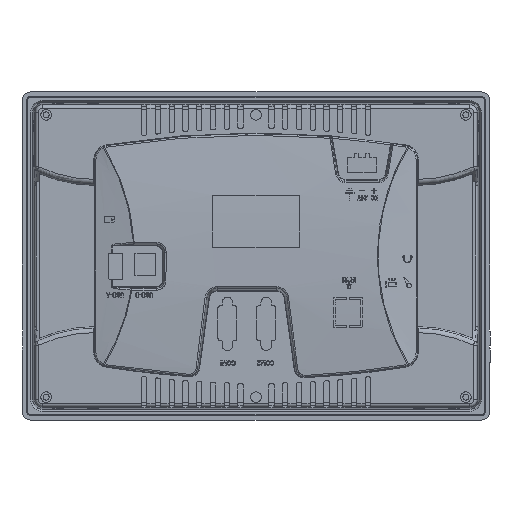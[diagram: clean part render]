
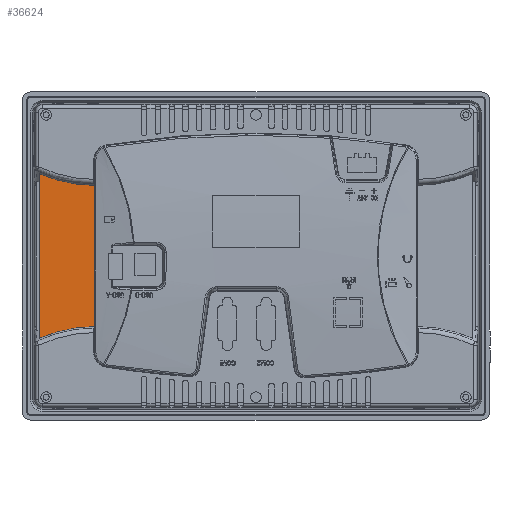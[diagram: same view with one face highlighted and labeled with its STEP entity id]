
A CAD part, front view. The second image highlights one B-rep face of the part: STEP entity #36624.
In plain terms, the highlighted planar face has unit normal (0, -1, 0).
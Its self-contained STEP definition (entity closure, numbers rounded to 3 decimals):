
#1142=DIRECTION('',(0.,0.,1.));
#1143=VECTOR('',#1142,95.656);
#1144=CARTESIAN_POINT('',(-125.724,-22.7,-47.828));
#1145=LINE('',#1144,#1143);
#1286=DIRECTION('',(0.,0.,1.));
#1287=VECTOR('',#1286,80.994);
#1288=CARTESIAN_POINT('',(-93.855,-22.7,-40.497));
#1289=LINE('',#1288,#1287);
#1302=CARTESIAN_POINT('',(-93.855,-22.7,40.497));
#1303=CARTESIAN_POINT('',(-93.855,-22.7,40.58));
#1304=CARTESIAN_POINT('',(-93.883,-22.7,40.729));
#1305=CARTESIAN_POINT('',(-93.999,-22.7,40.921));
#1306=CARTESIAN_POINT('',(-94.163,-22.7,41.038));
#1307=CARTESIAN_POINT('',(-94.28,-22.7,41.064));
#1308=CARTESIAN_POINT('',(-94.343,-22.7,41.064));
#1321=CARTESIAN_POINT('',(-93.75,-22.7,120.));
#1322=DIRECTION('',(0.,-1.,0.));
#1323=DIRECTION('',(-0.405,0.,-0.914));
#1324=AXIS2_PLACEMENT_3D('',#1321,#1322,#1323);
#20764=CARTESIAN_POINT('',(-93.75,-22.7,-120.));
#20765=DIRECTION('',(0.,-1.,0.));
#20766=DIRECTION('',(-0.008,0.,1.));
#20767=AXIS2_PLACEMENT_3D('',#20764,#20765,#20766);
#20780=CARTESIAN_POINT('',(-94.343,-22.7,-41.064));
#20781=CARTESIAN_POINT('',(-94.28,-22.7,-41.064));
#20782=CARTESIAN_POINT('',(-94.163,-22.7,-41.038));
#20783=CARTESIAN_POINT('',(-93.999,-22.7,-40.921));
#20784=CARTESIAN_POINT('',(-93.883,-22.7,-40.729));
#20785=CARTESIAN_POINT('',(-93.855,-22.7,-40.58));
#20786=CARTESIAN_POINT('',(-93.855,-22.7,-40.497));
#33933=CARTESIAN_POINT('',(-93.855,-22.7,-40.497));
#33934=CARTESIAN_POINT('',(-93.855,-22.7,40.497));
#33935=VERTEX_POINT('',#33933);
#33936=VERTEX_POINT('',#33934);
#33945=CARTESIAN_POINT('',(-125.724,-22.7,47.828));
#33946=CARTESIAN_POINT('',(-94.343,-22.7,41.064));
#33947=VERTEX_POINT('',#33945);
#33948=VERTEX_POINT('',#33946);
#33949=CARTESIAN_POINT('',(-94.343,-22.7,-41.064));
#33950=CARTESIAN_POINT('',(-125.724,-22.7,-47.828));
#33951=VERTEX_POINT('',#33949);
#33952=VERTEX_POINT('',#33950);
#36605=CARTESIAN_POINT('',(0.,-22.7,0.));
#36606=DIRECTION('',(0.,1.,0.));
#36607=DIRECTION('',(-1.,0.,0.));
#36608=AXIS2_PLACEMENT_3D('',#36605,#36606,#36607);
#36609=PLANE('',#36608);
#36611=ORIENTED_EDGE('',*,*,#36610,.F.);
#36613=ORIENTED_EDGE('',*,*,#36612,.F.);
#36615=ORIENTED_EDGE('',*,*,#36614,.T.);
#36617=ORIENTED_EDGE('',*,*,#36616,.T.);
#36619=ORIENTED_EDGE('',*,*,#36618,.T.);
#36621=ORIENTED_EDGE('',*,*,#36620,.F.);
#36622=EDGE_LOOP('',(#36611,#36613,#36615,#36617,#36619,#36621));
#36623=FACE_OUTER_BOUND('',#36622,.F.);
#1309=B_SPLINE_CURVE_WITH_KNOTS('',3,(#1302,#1303,#1304,#1305,#1306,#1307,
#1308),.UNSPECIFIED.,.F.,.F.,(4,1,1,1,4),(0.,0.25,0.5,0.75,1.),
.UNSPECIFIED.);
#1325=CIRCLE('',#1324,78.938);
#20768=CIRCLE('',#20767,78.938);
#20787=B_SPLINE_CURVE_WITH_KNOTS('',3,(#20780,#20781,#20782,#20783,#20784,
#20785,#20786),.UNSPECIFIED.,.F.,.F.,(4,1,1,1,4),(0.,0.25,0.5,0.75,
1.),.UNSPECIFIED.);
#36610=EDGE_CURVE('',#33935,#33936,#1289,.T.);
#36612=EDGE_CURVE('',#33951,#33935,#20787,.T.);
#36614=EDGE_CURVE('',#33951,#33952,#20768,.T.);
#36616=EDGE_CURVE('',#33952,#33947,#1145,.T.);
#36618=EDGE_CURVE('',#33947,#33948,#1325,.T.);
#36620=EDGE_CURVE('',#33936,#33948,#1309,.T.);
#36624=ADVANCED_FACE('',(#36623),#36609,.F.);
